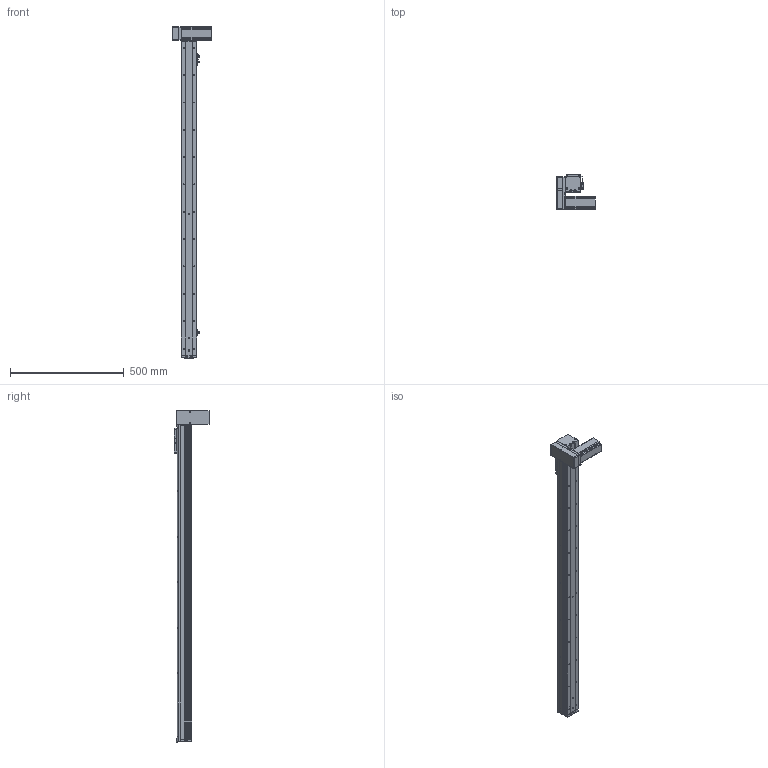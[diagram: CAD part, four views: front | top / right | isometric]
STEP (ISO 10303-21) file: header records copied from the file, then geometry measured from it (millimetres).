
FILE_DESCRIPTION (( 'STEP AP214' ), '1' );
FILE_NAME ('KSD68BS-S1200-MRD-CR.STEP', '2019-08-28T02:37:13', ( '微软用户' ), ( '微软中国' ), 'SwSTEP 2.0', 'SolidWorks 2014', '' );
FILE_SCHEMA (( 'AUTOMOTIVE_DESIGN' ));
Length unit declared in the file: millimetre
Products named in the file (14): KSD68BS 1200行程侧板全封闭; 68宽单导轨全封闭同步带端板; 68单导轨全封闭同步带电机座右; 68单导轨全封闭同步带安装板; 悵誘欶奻狟殏; 68宽马达安装板连板上折同步带; 感应片68宽全封闭; U倰嫖萇EEㄜSX672; 台达ECMA－C20604AS伺服电机（400W); KSD68BS 1200行程底板全封闭; KSD68BS-S1200-MRD-CR; KSD68BS 1200行程盖板全封闭; 68遵裔啣揤啣1; 68宽单导轨全封闭丝杆传动安装板1防护罩
Assembly tree (17 placements, depth 2):
  KSD68BS-S1200-MRD-CR
    KSD68BS 1200行程底板全封闭
    台达ECMA－C20604AS伺服电机（400W)
    U倰嫖萇EEㄜSX672  x3
    感应片68宽全封闭
    68宽马达安装板连板上折同步带
    悵誘欶奻狟殏
    68单导轨全封闭同步带安装板
    68单导轨全封闭同步带电机座右
    68宽单导轨全封闭同步带端板
    KSD68BS 1200行程侧板全封闭  x2
    68宽单导轨全封闭丝杆传动安装板1防护罩
    68遵裔啣揤啣1  x2
    KSD68BS 1200行程盖板全封闭
Bounding box: 167.2 x 155.5 x 1458.1 mm (x, y, z)
Volume: 2809006.4 mm3; surface area: 1097566.7 mm2
Topology: 18 solids, 18 shells, 1514 faces, 4323 edges, 2755 vertices
Faces by surface type: cylinder 707, plane 631, cone 176
Entity records: 47842 total; most frequent: CARTESIAN_POINT 8329, DIRECTION 7159, ORIENTED_EDGE 6874, EDGE_CURVE 3437, AXIS2_PLACEMENT_3D 2575, VERTEX_POINT 2253, VECTOR 2009, LINE 2009
